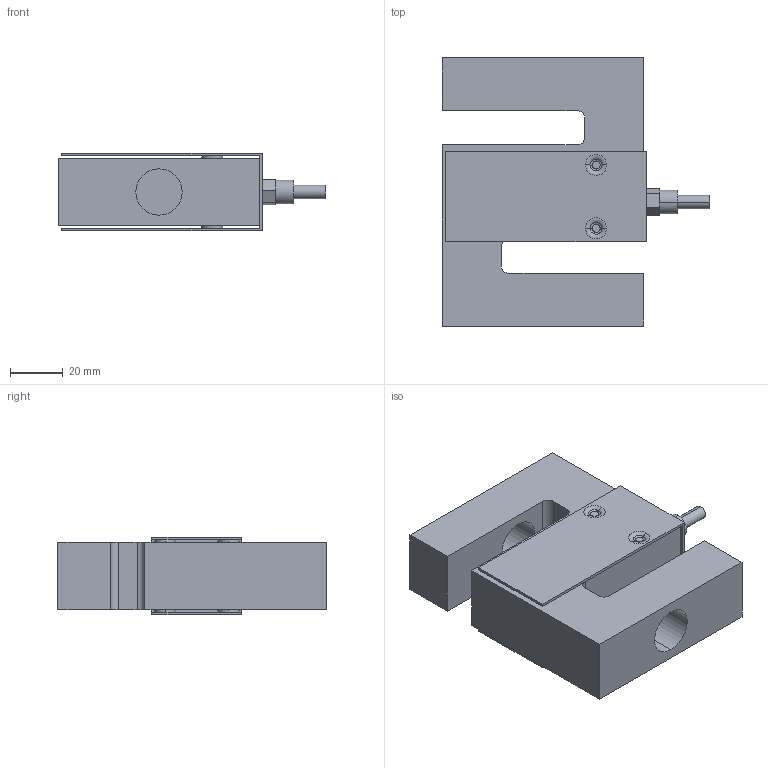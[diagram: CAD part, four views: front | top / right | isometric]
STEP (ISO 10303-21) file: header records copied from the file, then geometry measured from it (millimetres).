
FILE_DESCRIPTION (( 'STEP AP214' ), '1' );
FILE_NAME ('H3 2t.STEP', '2014-03-07T08:44:36', ( 'Gebruiker' ), ( '' ), 'SwSTEP 2.0', 'SolidWorks 2011', '' );
FILE_SCHEMA (( 'AUTOMOTIVE_DESIGN' ));
Length unit declared in the file: millimetre
Products named in the file (1): H3 2t
Bounding box: 101.2 x 101.6 x 29.41 mm (x, y, z)
Volume: 158810 mm3; surface area: 42476.1 mm2
Topology: 5 solids, 5 shells, 93 faces, 212 edges, 136 vertices
Faces by surface type: plane 49, cylinder 28, torus 16
Entity records: 3751 total; most frequent: DIRECTION 500, CARTESIAN_POINT 442, ORIENTED_EDGE 424, EDGE_CURVE 212, AXIS2_PLACEMENT_3D 194, VERTEX_POINT 136, LINE 112, VECTOR 112
